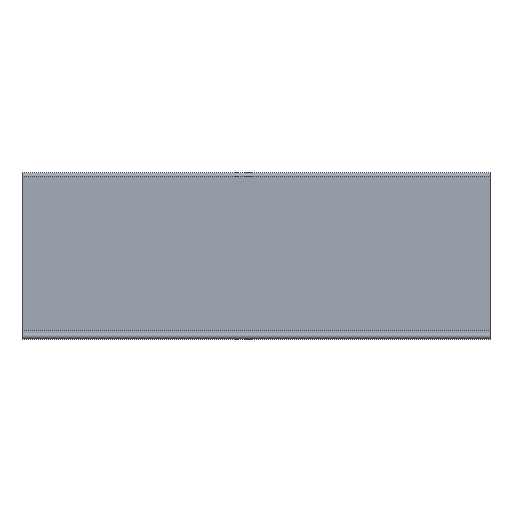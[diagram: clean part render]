
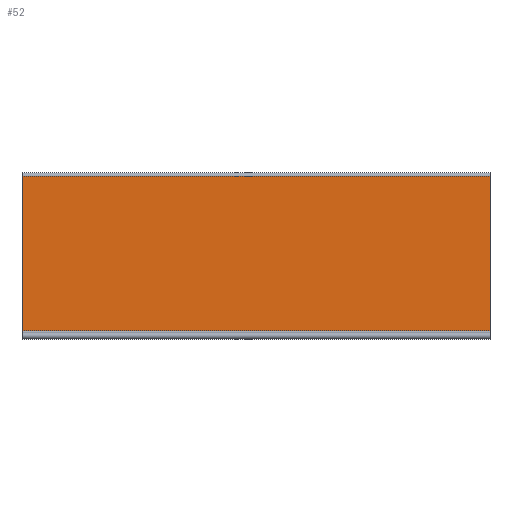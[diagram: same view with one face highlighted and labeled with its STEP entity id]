
A CAD part, left-side view. The second image highlights one B-rep face of the part: STEP entity #52.
In plain terms, the highlighted planar face has unit normal (-1, 0, 0).
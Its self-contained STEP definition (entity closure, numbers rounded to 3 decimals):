
#52 = ADVANCED_FACE( '', ( #125 ), #126, .T. );
#125 = FACE_OUTER_BOUND( '', #216, .T. );
#126 = PLANE( '', #217 );
#216 = EDGE_LOOP( '', ( #301, #302, #303, #304 ) );
#217 = AXIS2_PLACEMENT_3D( '', #305, #306, #307 );
#301 = ORIENTED_EDGE( '', *, *, #569, .F. );
#302 = ORIENTED_EDGE( '', *, *, #570, .T. );
#303 = ORIENTED_EDGE( '', *, *, #571, .T. );
#304 = ORIENTED_EDGE( '', *, *, #572, .T. );
#305 = CARTESIAN_POINT( '', ( 0., -900., 3. ) );
#306 = DIRECTION( '', ( -1., 0., 0. ) );
#307 = DIRECTION( '', ( 0., 0., 1. ) );
#569 = EDGE_CURVE( '', #675, #676, #677, .T. );
#570 = EDGE_CURVE( '', #675, #678, #679, .F. );
#571 = EDGE_CURVE( '', #678, #680, #681, .T. );
#572 = EDGE_CURVE( '', #680, #676, #682, .T. );
#675 = VERTEX_POINT( '', #833 );
#676 = VERTEX_POINT( '', #834 );
#677 = LINE( '', #835, #836 );
#678 = VERTEX_POINT( '', #837 );
#679 = LINE( '', #838, #839 );
#680 = VERTEX_POINT( '', #840 );
#681 = LINE( '', #841, #842 );
#682 = LINE( '', #843, #844 );
#833 = CARTESIAN_POINT( '', ( 0., 0., 6. ) );
#834 = CARTESIAN_POINT( '', ( 0., 0., 303.5 ) );
#835 = CARTESIAN_POINT( '', ( 0., 0., 3. ) );
#836 = VECTOR( '', #1038, 1000. );
#837 = CARTESIAN_POINT( '', ( 0., -900., 6. ) );
#838 = CARTESIAN_POINT( '', ( 0., -900., 6. ) );
#839 = VECTOR( '', #1039, 1000. );
#840 = CARTESIAN_POINT( '', ( 0., -900., 303.5 ) );
#841 = CARTESIAN_POINT( '', ( 0., -900., 3. ) );
#842 = VECTOR( '', #1040, 1000. );
#843 = CARTESIAN_POINT( '', ( 0., -900., 303.5 ) );
#844 = VECTOR( '', #1041, 1000. );
#1038 = DIRECTION( '', ( 0., 0., 1. ) );
#1039 = DIRECTION( '', ( 0., 1., 0. ) );
#1040 = DIRECTION( '', ( 0., 0., 1. ) );
#1041 = DIRECTION( '', ( 0., 1., 0. ) );
